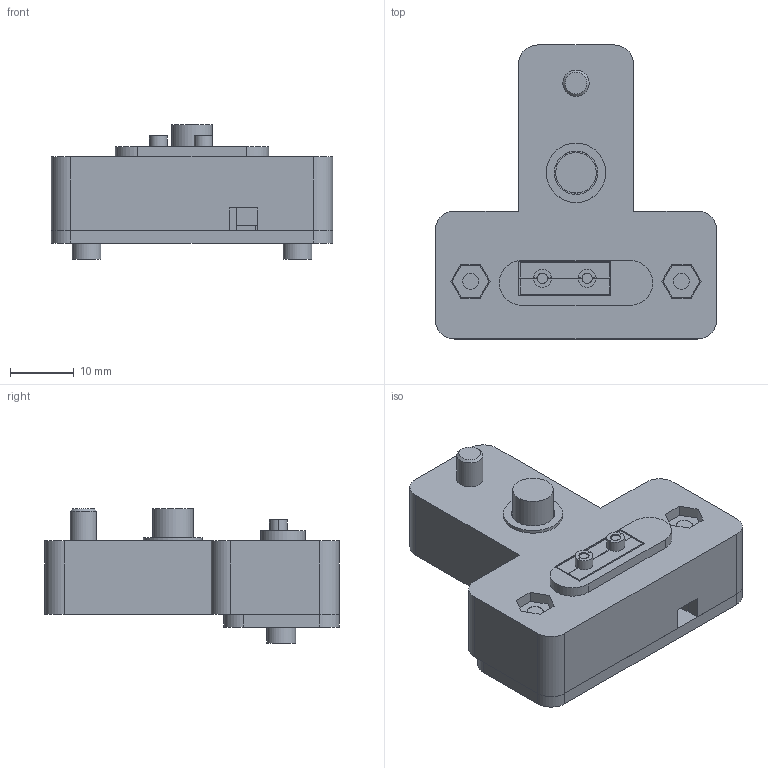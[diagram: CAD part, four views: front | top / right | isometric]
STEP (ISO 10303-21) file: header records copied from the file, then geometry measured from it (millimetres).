
FILE_DESCRIPTION(('Open CASCADE Model'),'2;1');
FILE_NAME('Open CASCADE Shape Model','2026-10-19T15:20:36',('Author'),( 'Open CASCADE'),'Open CASCADE STEP processor 7.9','Open CASCADE 7.9' ,'Unknown');
FILE_SCHEMA(('AUTOMOTIVE_DESIGN { 1 0 10303 214 1 1 1 1 }'));
Length unit declared in the file: millimetre
Products named in the file (12): ELTS_VIVE_Tracker_3_Trigger_Connector_Rev_B; body; insert_front; insert_rear; wire_cover; contact_2_ground; contact_4_trigger; mount_screw_reference; cover_screw_left_reference; cover_nut_left_reference; cover_screw_right_reference; cover_nut_right_reference
Assembly tree (11 placements, depth 2):
  ELTS_VIVE_Tracker_3_Trigger_Connector_Rev_B
    body
    insert_front
    insert_rear
    wire_cover
    contact_2_ground
    contact_4_trigger
    mount_screw_reference
    cover_screw_left_reference
    cover_nut_left_reference
    cover_screw_right_reference
    cover_nut_right_reference
Bounding box: 44 x 46 x 21 mm (x, y, z)
Volume: 14254.9 mm3; surface area: 10481.3 mm2
Topology: 11 solids, 11 shells, 240 faces, 598 edges, 398 vertices
Faces by surface type: plane 174, cylinder 65, cone 1
Full cylindrical faces by diameter (mm): 0.9 x2, 1.5 x2, 2 x2, 2.5 x4, 2.9 x4, 4.1 x1, 4.5 x2, 6.35 x1, 6.8 x1, 9.3 x1, 10.8 x1, 11.8 x1
Entity records: 15000 total; most frequent: CARTESIAN_POINT 3098, DIRECTION 2020, ORIENTED_EDGE 1196, PCURVE 1196, DEFINITIONAL_REPRESENTATION 1196, LINE 1173, VECTOR 1173, EDGE_CURVE 598
